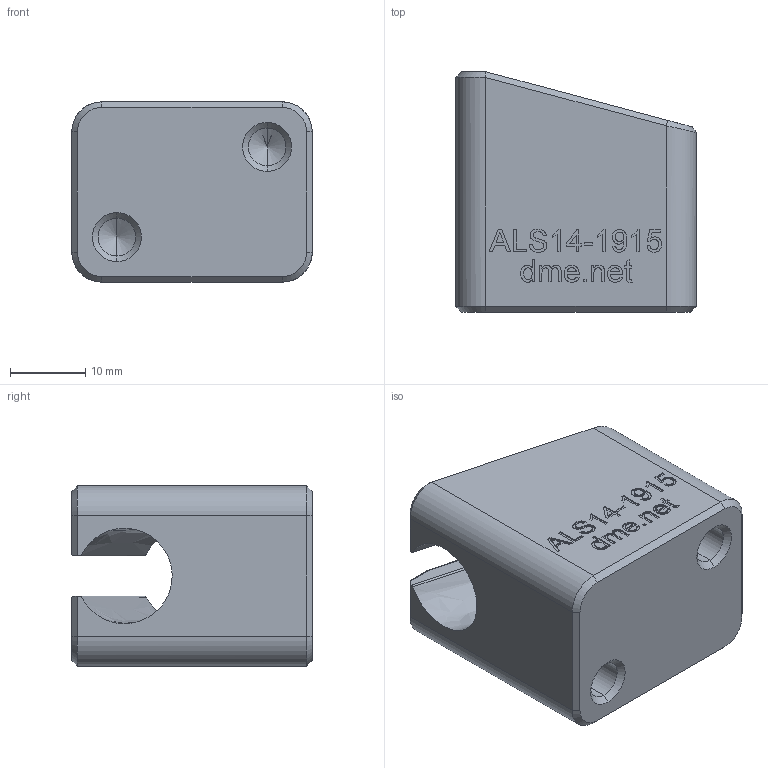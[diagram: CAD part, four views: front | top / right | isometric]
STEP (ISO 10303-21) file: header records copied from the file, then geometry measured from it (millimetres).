
FILE_DESCRIPTION (( 'STEP AP203' ), '1' );
FILE_NAME ('ALS14-1915.STEP', '2021-01-11T12:15:33', ( '' ), ( '' ), 'SwSTEP 2.0', 'SolidWorks 2020', '' );
FILE_SCHEMA (( 'CONFIG_CONTROL_DESIGN' ));
Length unit declared in the file: millimetre
Products named in the file (1): ALS14-1915
Bounding box: 32 x 32 x 24 mm (x, y, z)
Volume: 16833.2 mm3; surface area: 5575.8 mm2
Topology: 1 solids, 1 shells, 271 faces, 712 edges, 464 vertices
Faces by surface type: plane 150, bspline 93, cone 14, cylinder 14
Entity records: 13288 total; most frequent: CARTESIAN_POINT 7218, ORIENTED_EDGE 1416, DIRECTION 887, EDGE_CURVE 708, LINE 481, VECTOR 481, VERTEX_POINT 464, EDGE_LOOP 296
